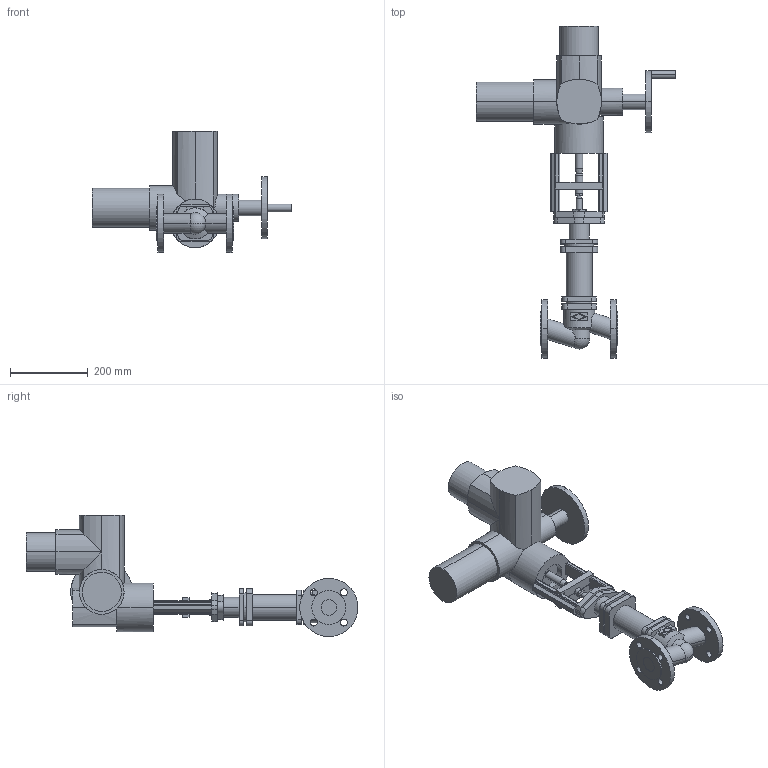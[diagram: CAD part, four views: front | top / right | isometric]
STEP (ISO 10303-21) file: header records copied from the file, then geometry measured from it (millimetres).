
FILE_DESCRIPTION(('OneSpaceDesigner STEP Export'),'2;1');
FILE_NAME('c000003136.stp','2007-01-19T11:29:10',(''),(''),'OneSpace Designer STEP processor for AP214 (Solid Model)','OneSpace Designer 14.00B 27-May-2006 (C) CoCreate Software GmbH','');
FILE_SCHEMA(('AUTOMOTIVE_DESIGN { 1 0 10303 214 1 1 1 1 }'));
Length unit declared in the file: millimetre
Products named in the file (2): 1; 2
Bounding box: 514 x 855 x 312 mm (x, y, z)
Volume: 10744789.2 mm3; surface area: 672407.7 mm2
Topology: 2 solids, 2 shells, 312 faces, 797 edges, 508 vertices
Faces by surface type: plane 154, cylinder 150, cone 6, sphere 2
Entity records: 10080 total; most frequent: CARTESIAN_POINT 2068, ORIENTED_EDGE 1590, DIRECTION 1385, SURFACE_CURVE 795, EDGE_CURVE 795, VERTEX_POINT 508, AXIS2_PLACEMENT_3D 470, VECTOR 445
